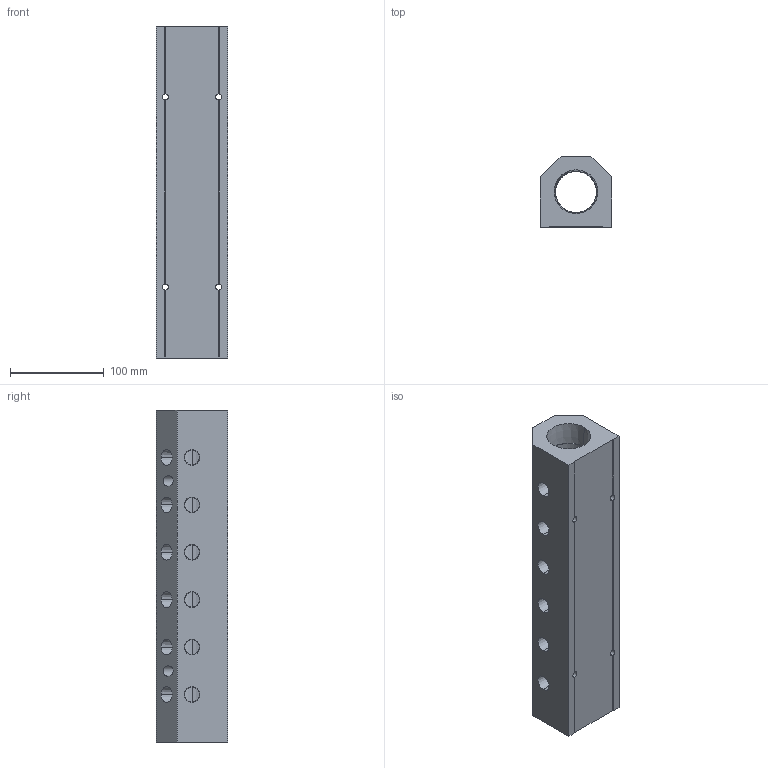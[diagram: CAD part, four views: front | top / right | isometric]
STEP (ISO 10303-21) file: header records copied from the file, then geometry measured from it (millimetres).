
FILE_DESCRIPTION (( 'STEP AP214' ), '1' );
FILE_NAME ('ALM6ABC-N6N24-355R.step', '2022-02-07T07:58:05', ( '' ), ( '' ), 'SwSTEP 2.0', 'SolidWorks 2020', '' );
FILE_SCHEMA (( 'AUTOMOTIVE_DESIGN' ));
Length unit declared in the file: millimetre
Products named in the file (1): ALM6ABC-N6N24-355R
Bounding box: 76.2 x 76.2 x 355 mm (x, y, z)
Volume: 1258366.2 mm3; surface area: 169185 mm2
Topology: 1 solids, 1 shells, 352 faces, 946 edges, 624 vertices
Faces by surface type: plane 215, bspline 79, cone 40, cylinder 18
Entity records: 20803 total; most frequent: CARTESIAN_POINT 9118, ORIENTED_EDGE 1892, DIRECTION 1356, EDGE_CURVE 946, VECTOR 664, LINE 664, VERTEX_POINT 624, EDGE_LOOP 426
